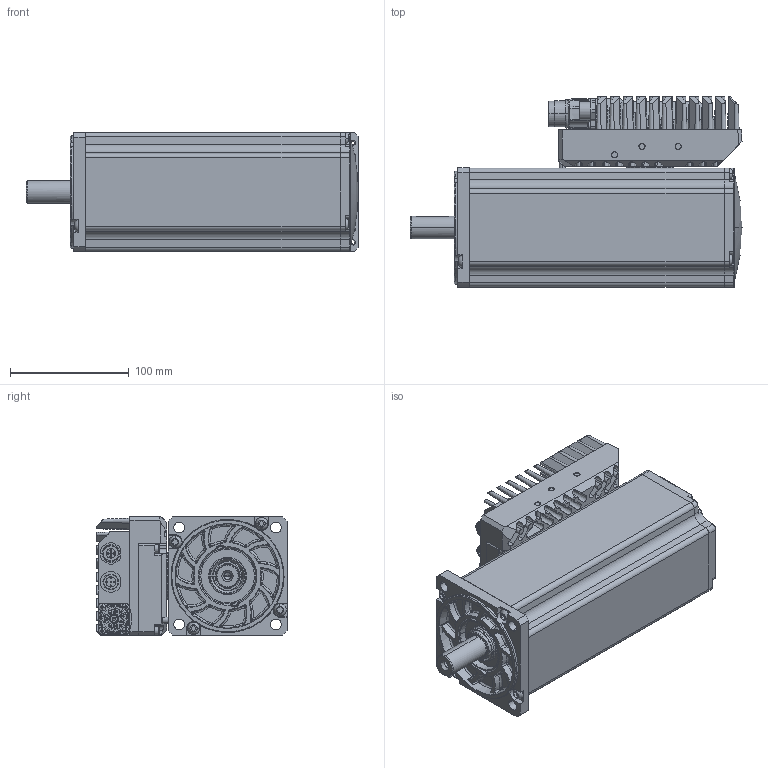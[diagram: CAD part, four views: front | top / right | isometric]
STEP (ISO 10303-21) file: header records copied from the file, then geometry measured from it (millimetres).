
FILE_DESCRIPTION((''),'2;1');
FILE_NAME('60819N-0_SW0001','2015-09-09T',('hegenwang'),(''),'PRO/ENGINEER BY PARAMETRIC TECHNOLOGY CORPORATION, 2010430','PRO/ENGINEER BY PARAMETRIC TECHNOLOGY CORPORATION, 2010430','');
FILE_SCHEMA(('AUTOMOTIVE_DESIGN_CC2 { 1 2 10303 214 -1 1 5 2 }'));
Products named in the file (1): 60819N-0_SW0001
Bounding box: 279 x 159.8 x 100 mm (x, y, z)
Surface area: 249476.8 mm2 (no closed solid volume)
Topology: 0 solids, 113 shells, 1757 faces, 5387 edges, 3782 vertices
Faces by surface type: plane 785, cone 384, cylinder 329, bspline 95, torus 90, sphere 68, extrusion 4, revolution 2
Entity records: 97301 total; most frequent: CARTESIAN_POINT 24772, DIRECTION 9707, ORIENTED_EDGE 9360, PRESENTATION_STYLE_ASSIGNMENT 6611, STYLED_ITEM 5388, CURVE_STYLE 5349, EDGE_CURVE 5347, VERTEX_POINT 3782
